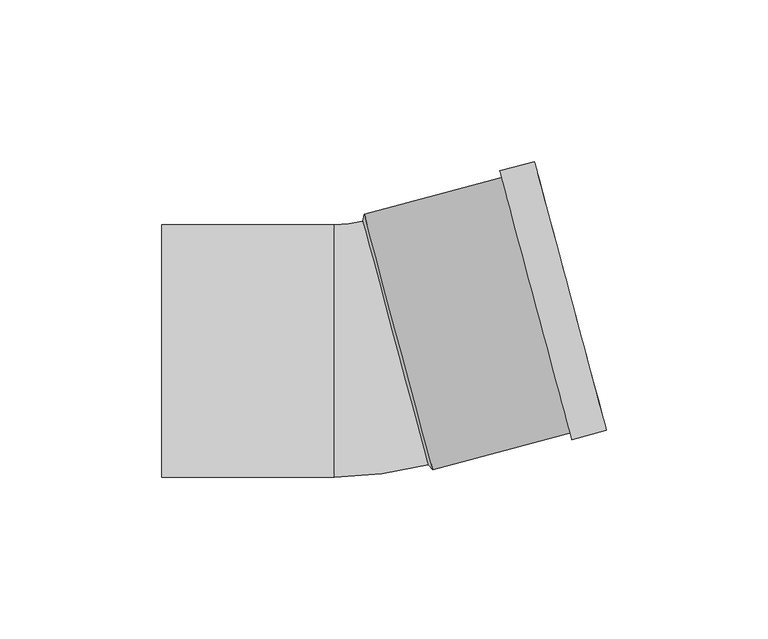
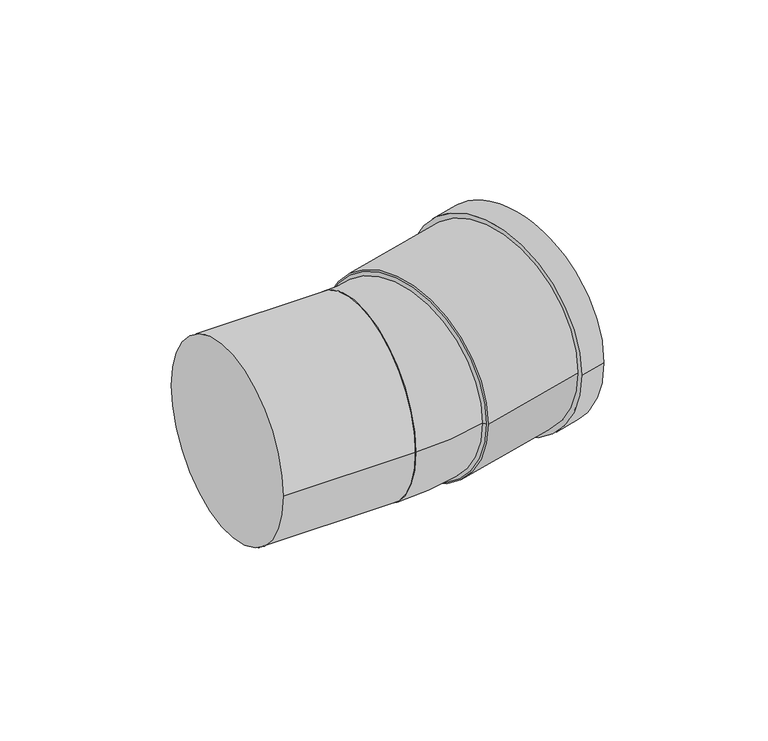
"""IFC4 building model written with IfcOpenShell, lengths in millimetres: pipe fitting geometry, Superdrain SKB Bend : Superdrain SKB Bend."""

from ifc_helpers import new_model, si_unit, point, frame, origin, origin_2d, place, context, project, spatial, polyline, circle_curve, ellipse_curve, trimmed, segment, composite_curve, outline, extrude, source, transform, mapped, element, save
from ifc_brep_helpers import plane_surface, revolved_surface, advanced_brep


def pipe_fitting_ba472d92(model_context):
    return source(origin(), model_context, "Body", "SolidModel", [
        advanced_brep(
        [(19.3668307, -35.1864444, 0.0), (-0.8210548, 40.1557701, 0.0), (-9.6, -39.0, 0.0), (-9.6, 39.0, 0.0)],
        [
            (0, 1, circle_curve(frame((9.2728879, 2.4846628, 0.0), z_axis=(0.965925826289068, 0.258819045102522, 0.0), x_axis=(-0.258819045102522, 0.965925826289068, 0.0)), 39.0)),
            (1, 0, circle_curve(frame((9.2728879, 2.4846628, 0.0), z_axis=(0.9659258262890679, 0.25881904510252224, 0.0), x_axis=(-0.25881904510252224, 0.9659258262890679, 0.0)), 39.0)),
            (2, 3, circle_curve(frame((-9.6, 0.0, 0.0), z_axis=(-1.0, 0.0, 0.0), x_axis=(0.0, 1.0, 0.0)), 39.0)),
            (3, 2, circle_curve(frame((-9.6, 0.0, 0.0), z_axis=(-1.0, 0.0, 0.0), x_axis=(0.0, 1.0, 0.0)), 39.0)),
            (3, 1, circle_curve(frame((-9.6, 72.9192395, 0.0), z_axis=(0.0, 0.0, 1.0), x_axis=(1.0, 0.0, 0.0)), 33.9192395)),
            (0, 2, circle_curve(frame((-9.6, 72.9192395, 0.0), z_axis=(0.0, 0.0, -1.0), x_axis=(1.0, 0.0, 0.0)), 111.9192395)),
        ],
        [
            plane_surface(frame((9.2728879, 2.4846628, 0.0), z_axis=(0.965925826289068, 0.258819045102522, 0.0), x_axis=(0.0, 0.0, -1.0))),
            plane_surface(frame((-9.6, 0.0, 0.0), z_axis=(-1.0, 0.0, 0.0), x_axis=(0.0, 0.0, -1.0))),
            revolved_surface(trimmed(ellipse_curve(frame((63.3192395, 72.9192395, 0.0), z_axis=(0.0, -1.0, 0.0), x_axis=(-1.0, 0.0, 0.0)), 39.0, 39.0), [point((24.3192395, 72.9192395, 0.0))], [point((102.3192395, 72.9192395, 0.0))], True, "CARTESIAN"), (-9.6, 72.9192395, 0.0), (0.0, 0.0, 1.0)),
            revolved_surface(trimmed(ellipse_curve(frame((63.3192395, 72.9192395, 0.0), z_axis=(0.0, -1.0, 0.0), x_axis=(-1.0, 0.0, 0.0)), 39.0, 39.0), [point((102.3192395, 72.9192395, 0.0))], [point((24.3192395, 72.9192395, 0.0))], True, "CARTESIAN"), (-9.6, 72.9192395, 0.0), (0.0, 0.0, 1.0)),
        ],
        [
            (0, [[1, 2]]),
            (1, [[3, 4]]),
            (2, [[-4, 5, -1, 6]]),
            (3, [[-3, -6, -2, -5]]),
        ],
    ),
        extrude(outline(composite_curve([segment(trimmed(circle_curve(origin_2d(), 40.95), [point((0.0, 40.95))], [point((0.0, -40.95))], False, "CARTESIAN"), True, "CONTINUOUS"), segment(trimmed(circle_curve(origin_2d(), 40.95), [point((0.0, -40.95))], [point((0.0, 40.95))], False, "CARTESIAN"), True, "CONTINUOUS")], self_intersect=False), holes=[composite_curve([segment(trimmed(circle_curve(origin_2d(), 39.0), [point((0.0, 39.0))], [point((0.0, -39.0))], True, "CARTESIAN"), True, "CONTINUOUS"), segment(trimmed(circle_curve(origin_2d(), 39.0), [point((0.0, -39.0))], [point((0.0, 39.0))], True, "CARTESIAN"), True, "CONTINUOUS")], self_intersect=False)]), frame((10.2388138, 2.7434819, 0.0), z_axis=(0.9659258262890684, 0.25881904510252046, 0.0), x_axis=(0.0, 0.0, 1.0)), (0.0, 0.0, 1.0), 55.0),
        extrude(outline(composite_curve([segment(trimmed(circle_curve(origin_2d(), 42.9975), [point((0.0, -42.9975))], [point((0.0, 42.9975001))], False, "CARTESIAN"), True, "CONTINUOUS"), segment(trimmed(circle_curve(origin_2d(), 42.9975), [point((0.0, 42.9975001))], [point((0.0, -42.9975))], False, "CARTESIAN"), True, "CONTINUOUS")], self_intersect=False), holes=[composite_curve([segment(trimmed(circle_curve(origin_2d(), 39.0), [point((0.0, -39.0))], [point((0.0, 39.0000001))], True, "CARTESIAN"), True, "CONTINUOUS"), segment(trimmed(circle_curve(origin_2d(), 39.0), [point((0.0, 39.0000001))], [point((0.0, -39.0))], True, "CARTESIAN"), True, "CONTINUOUS")], self_intersect=False)]), frame((52.7395501, 14.1315199, 0.0), z_axis=(0.9659258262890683, 0.2588190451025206, 0.0), x_axis=(0.0, 0.0, 1.0)), (0.0, 0.0, 1.0), 11.0),
        advanced_brep(
        [(20.8374537, -36.8111807, 0.0), (-0.3598261, 42.2981445, 0.0), (19.3668307, -35.1864444, 0.0), (-0.8210548, 40.1557701, 0.0)],
        [
            (0, 1, circle_curve(frame((10.2388138, 2.7434819, 0.0), z_axis=(0.9659258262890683, 0.2588190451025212, 0.0), x_axis=(0.2588190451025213, -0.9659258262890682, 0.0)), 40.95)),
            (1, 0, circle_curve(frame((10.2388138, 2.7434819, 0.0), z_axis=(0.9659258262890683, 0.2588190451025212, 0.0), x_axis=(-0.25881904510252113, 0.9659258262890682, 0.0)), 40.95)),
            (2, 3, circle_curve(frame((9.2728879, 2.4846628, 0.0), z_axis=(-0.9659258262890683, -0.2588190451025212, 0.0), x_axis=(-0.25881904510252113, 0.9659258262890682, 0.0)), 39.0)),
            (3, 2, circle_curve(frame((9.2728879, 2.4846628, 0.0), z_axis=(-0.9659258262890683, -0.2588190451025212, 0.0), x_axis=(0.2588190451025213, -0.9659258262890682, 0.0)), 39.0)),
            (3, 1),
            (0, 2),
        ],
        [
            plane_surface(frame((10.2388138, 2.7434819, 0.0), z_axis=(0.9659258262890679, 0.25881904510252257, 0.0), x_axis=(0.0, 0.0, -1.0))),
            plane_surface(frame((9.2728879, 2.4846628, 0.0), z_axis=(-0.9659258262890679, -0.25881904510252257, 0.0), x_axis=(0.0, 0.0, -1.0))),
            revolved_surface(polyline([(-0.8210548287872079, 40.155769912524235, 0.0), (-0.35982609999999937, 42.2981445, 0.0)]), (-10.0456286, -2.6917181, 0.0), (0.9659258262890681, 0.25881904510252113, 0.0)),
            revolved_surface(polyline([(19.36683061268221, -35.18644425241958, 0.0), (20.837453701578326, -36.81118070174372, 0.0)]), (-10.0456286, -2.6917181, 0.0), (0.9659258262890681, 0.25881904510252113, 0.0)),
        ],
        [
            (0, [[1, 2]]),
            (1, [[3, 4]]),
            (2, [[-4, 5, -1, 6]]),
            (3, [[-3, -6, -2, -5]]),
        ],
    ),
        extrude(outline(composite_curve([segment(trimmed(circle_curve(origin_2d(), 39.0), [point((-39.0, 0.0))], [point((39.0, 0.0))], False, "CARTESIAN"), True, "CONTINUOUS"), segment(trimmed(circle_curve(origin_2d(), 39.0), [point((39.0, 0.0))], [point((-39.0, 0.0))], False, "CARTESIAN"), True, "CONTINUOUS")], self_intersect=False)), frame((-63.0, 0.0, 0.0), z_axis=(1.0, 0.0, 0.0), x_axis=(0.0, 1.0, 0.0)), (0.0, 0.0, 1.0), 53.4),
    ])


if __name__ == "__main__":
    model = new_model("IFC4")
    model_context = context("Model", 3, world=origin())
    ifc_project = project(units=[si_unit("LENGTHUNIT", "METRE", prefix="MILLI")], contexts=[model_context])
    site = spatial("IfcSite", under=ifc_project)
    building = spatial("IfcBuilding", under=site)
    placement = place(None, origin())
    pipe_fitting_shape = pipe_fitting_ba472d92(model_context)
    element("IfcPipeFitting", 1, ObjectType="Superdrain SKB Bend : Superdrain SKB Bend", at=placement, inside=building, context=model_context, shape_type="MappedRepresentation", body=[
        mapped(pipe_fitting_shape, transform((0.0, 0.0, 0.0), x_axis=(1.0, 0.0, 0.0), y_axis=(0.0, 1.0, 0.0), z_axis=(0.0, 0.0, 1.0))),
    ])
    save(model, "model.ifc")
